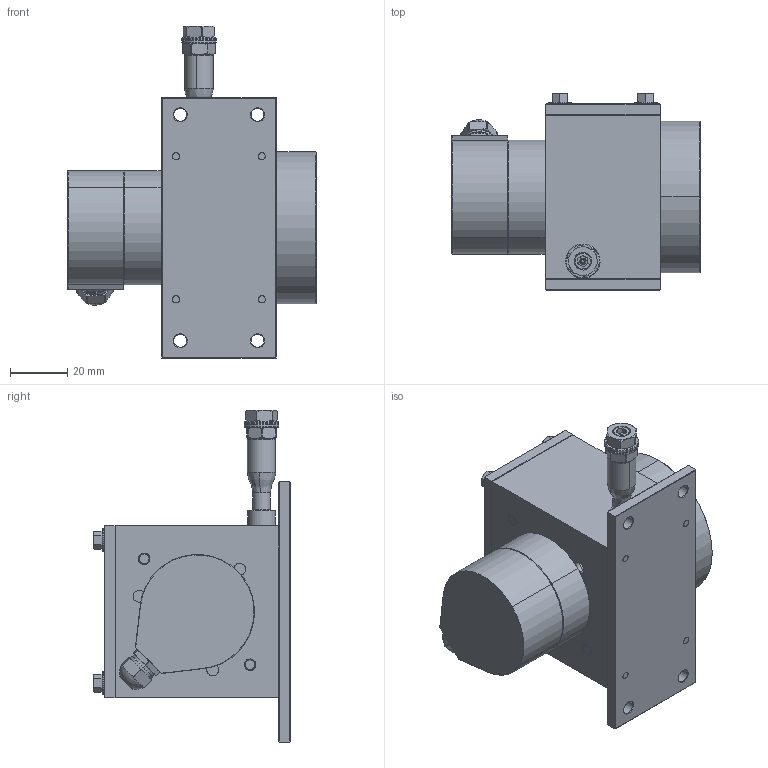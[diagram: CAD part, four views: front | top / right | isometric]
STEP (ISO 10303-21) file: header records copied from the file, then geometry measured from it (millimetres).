
FILE_DESCRIPTION (( 'STEP AP214' ), '1' );
FILE_NAME ('WDS-90A1_xxA.P01.STEP', '2025-03-04T08:30:15', ( '' ), ( '' ), 'SwSTEP 2.0', 'SolidWorks 2019', '' );
FILE_SCHEMA (( 'AUTOMOTIVE_DESIGN' ));
Length unit declared in the file: millimetre
Products named in the file (1): WDS-90A1_xxA.P01
Bounding box: 86.8 x 68.6 x 116 mm (x, y, z)
Volume: 80423.4 mm3; surface area: 60646.1 mm2
Topology: 1 solids, 9 shells, 843 faces, 1986 edges, 1217 vertices
Faces by surface type: cone 249, cylinder 239, plane 225, sphere 90, torus 34, bspline 6
Entity records: 34276 total; most frequent: CARTESIAN_POINT 4921, DIRECTION 4605, ORIENTED_EDGE 3972, EDGE_CURVE 1986, AXIS2_PLACEMENT_3D 1937, VERTEX_POINT 1217, CIRCLE 1099, EDGE_LOOP 965
